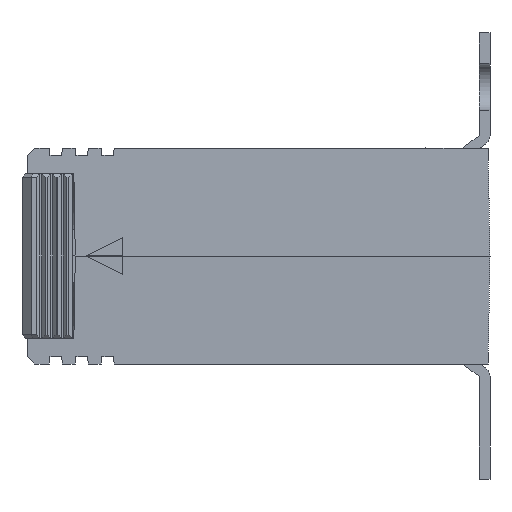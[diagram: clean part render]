
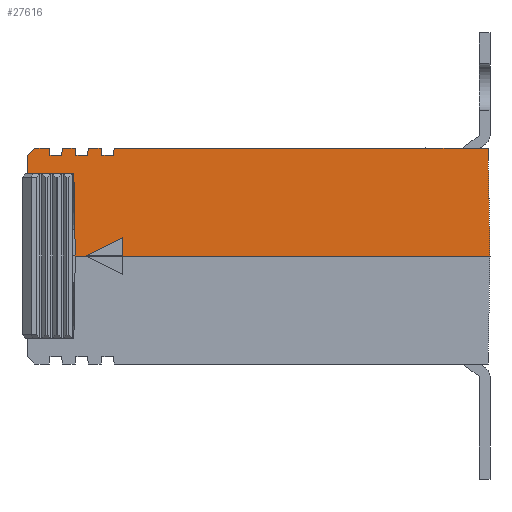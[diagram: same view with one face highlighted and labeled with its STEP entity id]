
A CAD part, left-side view. The second image highlights one B-rep face of the part: STEP entity #27616.
In plain terms, the highlighted planar face has unit normal (-1, 0, 0.018).
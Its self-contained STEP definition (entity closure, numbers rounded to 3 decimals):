
#2752=FACE_OUTER_BOUND('',#4282,.T.);
#4282=EDGE_LOOP('',(#19717,#19718,#19719,#19720,#19721,#19722,#19723,#19724,
#19725,#19726,#19727,#19728,#19729,#19730,#19731,#19732,#19733,#19734,#19735,
#19736,#19737,#19738));
#6205=LINE('',#37077,#9199);
#6605=LINE('',#39649,#9599);
#6606=LINE('',#39651,#9600);
#6607=LINE('',#39653,#9601);
#6608=LINE('',#39655,#9602);
#6609=LINE('',#39657,#9603);
#6610=LINE('',#39659,#9604);
#6611=LINE('',#39661,#9605);
#6612=LINE('',#39663,#9606);
#6613=LINE('',#39665,#9607);
#6614=LINE('',#39667,#9608);
#6615=LINE('',#39669,#9609);
#6616=LINE('',#39671,#9610);
#6617=LINE('',#39673,#9611);
#6618=LINE('',#39675,#9612);
#6619=LINE('',#39677,#9613);
#6620=LINE('',#39679,#9614);
#6621=LINE('',#39681,#9615);
#6622=LINE('',#39683,#9616);
#6623=LINE('',#39685,#9617);
#6624=LINE('',#39687,#9618);
#6625=LINE('',#39688,#9619);
#9199=VECTOR('',#31060,1000.);
#9599=VECTOR('',#31740,1000.);
#9600=VECTOR('',#31741,1000.);
#9601=VECTOR('',#31742,1000.);
#9602=VECTOR('',#31743,1000.);
#9603=VECTOR('',#31744,1000.);
#9604=VECTOR('',#31745,1000.);
#9605=VECTOR('',#31746,1000.);
#9606=VECTOR('',#31747,1000.);
#9607=VECTOR('',#31748,1000.);
#9608=VECTOR('',#31749,1000.);
#9609=VECTOR('',#31750,1000.);
#9610=VECTOR('',#31751,1000.);
#9611=VECTOR('',#31752,1000.);
#9612=VECTOR('',#31753,1000.);
#9613=VECTOR('',#31754,1000.);
#9614=VECTOR('',#31755,1000.);
#9615=VECTOR('',#31756,1000.);
#9616=VECTOR('',#31757,1000.);
#9617=VECTOR('',#31758,1000.);
#9618=VECTOR('',#31759,1000.);
#9619=VECTOR('',#31760,1000.);
#12178=VERTEX_POINT('',#37074);
#12179=VERTEX_POINT('',#37076);
#12671=VERTEX_POINT('',#39648);
#12672=VERTEX_POINT('',#39650);
#12673=VERTEX_POINT('',#39652);
#12674=VERTEX_POINT('',#39654);
#12675=VERTEX_POINT('',#39656);
#12676=VERTEX_POINT('',#39658);
#12677=VERTEX_POINT('',#39660);
#12678=VERTEX_POINT('',#39662);
#12679=VERTEX_POINT('',#39664);
#12680=VERTEX_POINT('',#39666);
#12681=VERTEX_POINT('',#39668);
#12682=VERTEX_POINT('',#39670);
#12683=VERTEX_POINT('',#39672);
#12684=VERTEX_POINT('',#39674);
#12685=VERTEX_POINT('',#39676);
#12686=VERTEX_POINT('',#39678);
#12687=VERTEX_POINT('',#39680);
#12688=VERTEX_POINT('',#39682);
#12689=VERTEX_POINT('',#39684);
#12690=VERTEX_POINT('',#39686);
#14837=EDGE_CURVE('',#12179,#12178,#6205,.T.);
#15402=EDGE_CURVE('',#12671,#12178,#6605,.T.);
#15403=EDGE_CURVE('',#12672,#12671,#6606,.T.);
#15404=EDGE_CURVE('',#12672,#12673,#6607,.T.);
#15405=EDGE_CURVE('',#12673,#12674,#6608,.T.);
#15406=EDGE_CURVE('',#12675,#12674,#6609,.T.);
#15407=EDGE_CURVE('',#12676,#12675,#6610,.T.);
#15408=EDGE_CURVE('',#12677,#12676,#6611,.T.);
#15409=EDGE_CURVE('',#12678,#12677,#6612,.T.);
#15410=EDGE_CURVE('',#12679,#12678,#6613,.T.);
#15411=EDGE_CURVE('',#12680,#12679,#6614,.T.);
#15412=EDGE_CURVE('',#12681,#12680,#6615,.T.);
#15413=EDGE_CURVE('',#12682,#12681,#6616,.T.);
#15414=EDGE_CURVE('',#12683,#12682,#6617,.T.);
#15415=EDGE_CURVE('',#12684,#12683,#6618,.T.);
#15416=EDGE_CURVE('',#12685,#12684,#6619,.T.);
#15417=EDGE_CURVE('',#12686,#12685,#6620,.T.);
#15418=EDGE_CURVE('',#12687,#12686,#6621,.T.);
#15419=EDGE_CURVE('',#12688,#12687,#6622,.T.);
#15420=EDGE_CURVE('',#12689,#12688,#6623,.T.);
#15421=EDGE_CURVE('',#12689,#12690,#6624,.T.);
#15422=EDGE_CURVE('',#12690,#12179,#6625,.T.);
#19717=ORIENTED_EDGE('',*,*,#15402,.F.);
#19718=ORIENTED_EDGE('',*,*,#15403,.F.);
#19719=ORIENTED_EDGE('',*,*,#15404,.T.);
#19720=ORIENTED_EDGE('',*,*,#15405,.T.);
#19721=ORIENTED_EDGE('',*,*,#15406,.F.);
#19722=ORIENTED_EDGE('',*,*,#15407,.F.);
#19723=ORIENTED_EDGE('',*,*,#15408,.F.);
#19724=ORIENTED_EDGE('',*,*,#15409,.F.);
#19725=ORIENTED_EDGE('',*,*,#15410,.F.);
#19726=ORIENTED_EDGE('',*,*,#15411,.F.);
#19727=ORIENTED_EDGE('',*,*,#15412,.F.);
#19728=ORIENTED_EDGE('',*,*,#15413,.F.);
#19729=ORIENTED_EDGE('',*,*,#15414,.F.);
#19730=ORIENTED_EDGE('',*,*,#15415,.F.);
#19731=ORIENTED_EDGE('',*,*,#15416,.F.);
#19732=ORIENTED_EDGE('',*,*,#15417,.F.);
#19733=ORIENTED_EDGE('',*,*,#15418,.F.);
#19734=ORIENTED_EDGE('',*,*,#15419,.F.);
#19735=ORIENTED_EDGE('',*,*,#15420,.F.);
#19736=ORIENTED_EDGE('',*,*,#15421,.T.);
#19737=ORIENTED_EDGE('',*,*,#15422,.T.);
#19738=ORIENTED_EDGE('',*,*,#14837,.T.);
#26522=PLANE('',#29292);
#27616=ADVANCED_FACE('',(#2752),#26522,.T.);
#29292=AXIS2_PLACEMENT_3D('',#39647,#31738,#31739);
#31060=DIRECTION('',(0.,-1.,0.));
#31738=DIRECTION('center_axis',(-1.,0.,
0.017));
#31739=DIRECTION('ref_axis',(0.017,0.,1.));
#31740=DIRECTION('',(0.017,0.017,1.));
#31741=DIRECTION('',(0.,1.,0.));
#31742=DIRECTION('',(0.008,-0.894,0.447));
#31743=DIRECTION('',(-0.017,0.,-1.));
#31744=DIRECTION('',(0.,1.,0.));
#31745=DIRECTION('',(-0.017,-0.017,-1.));
#31746=DIRECTION('',(0.,-1.,0.));
#31747=DIRECTION('',(0.017,-0.087,0.996));
#31748=DIRECTION('',(0.,-1.,0.));
#31749=DIRECTION('',(-0.017,-0.087,-0.996));
#31750=DIRECTION('',(0.,-1.,0.));
#31751=DIRECTION('',(0.017,-0.087,0.996));
#31752=DIRECTION('',(0.,-1.,0.));
#31753=DIRECTION('',(-0.017,-0.087,-0.996));
#31754=DIRECTION('',(0.,-1.,0.));
#31755=DIRECTION('',(0.017,-0.087,0.996));
#31756=DIRECTION('',(0.,-1.,0.));
#31757=DIRECTION('',(-0.017,-0.087,-0.996));
#31758=DIRECTION('',(0.,-1.,0.));
#31759=DIRECTION('',(-0.012,0.719,-0.695));
#31760=DIRECTION('',(-0.017,0.017,-1.));
#37074=CARTESIAN_POINT('',(-21.799,30.799,11.5));
#37076=CARTESIAN_POINT('',(-21.799,37.299,11.5));
#37077=CARTESIAN_POINT('',(-21.799,37.5,11.5));
#39647=CARTESIAN_POINT('Origin',(-22.,37.5,0.));
#39648=CARTESIAN_POINT('',(-22.,30.599,0.));
#39649=CARTESIAN_POINT('',(-21.998,30.601,0.12));
#39650=CARTESIAN_POINT('',(-22.,29.049,0.));
#39651=CARTESIAN_POINT('',(-22.,37.5,0.));
#39652=CARTESIAN_POINT('',(-21.956,24.049,2.5));
#39653=CARTESIAN_POINT('',(-22.,29.049,0.));
#39654=CARTESIAN_POINT('',(-22.,24.049,0.));
#39655=CARTESIAN_POINT('',(-21.956,24.049,2.5));
#39656=CARTESIAN_POINT('',(-22.,-27.,0.));
#39657=CARTESIAN_POINT('',(-22.,37.5,0.));
#39658=CARTESIAN_POINT('',(-21.738,-26.738,15.));
#39659=CARTESIAN_POINT('',(-22.,-27.,0.));
#39660=CARTESIAN_POINT('',(-21.738,25.2,15.));
#39661=CARTESIAN_POINT('',(-21.738,37.5,15.));
#39662=CARTESIAN_POINT('',(-21.756,25.287,14.));
#39663=CARTESIAN_POINT('',(-22.017,26.596,-0.954));
#39664=CARTESIAN_POINT('',(-21.756,26.913,14.));
#39665=CARTESIAN_POINT('',(-21.756,37.5,14.));
#39666=CARTESIAN_POINT('',(-21.738,27.,15.));
#39667=CARTESIAN_POINT('',(-21.982,25.777,1.025));
#39668=CARTESIAN_POINT('',(-21.738,28.8,15.));
#39669=CARTESIAN_POINT('',(-21.738,37.5,15.));
#39670=CARTESIAN_POINT('',(-21.756,28.887,14.));
#39671=CARTESIAN_POINT('',(-22.011,30.168,-0.641));
#39672=CARTESIAN_POINT('',(-21.756,30.513,14.));
#39673=CARTESIAN_POINT('',(-21.756,37.5,14.));
#39674=CARTESIAN_POINT('',(-21.738,30.6,15.));
#39675=CARTESIAN_POINT('',(-21.988,29.35,0.713));
#39676=CARTESIAN_POINT('',(-21.738,32.4,15.));
#39677=CARTESIAN_POINT('',(-21.738,37.5,15.));
#39678=CARTESIAN_POINT('',(-21.756,32.487,14.));
#39679=CARTESIAN_POINT('',(-22.006,33.741,-0.329));
#39680=CARTESIAN_POINT('',(-21.756,34.113,14.));
#39681=CARTESIAN_POINT('',(-21.756,37.5,14.));
#39682=CARTESIAN_POINT('',(-21.738,34.2,15.));
#39683=CARTESIAN_POINT('',(-21.993,32.923,0.4));
#39684=CARTESIAN_POINT('',(-21.738,36.22,15.));
#39685=CARTESIAN_POINT('',(-21.738,37.5,15.));
#39686=CARTESIAN_POINT('',(-21.756,37.256,14.));
#39687=CARTESIAN_POINT('',(-21.876,44.379,7.121));
#39688=CARTESIAN_POINT('',(-22.,37.5,0.));
